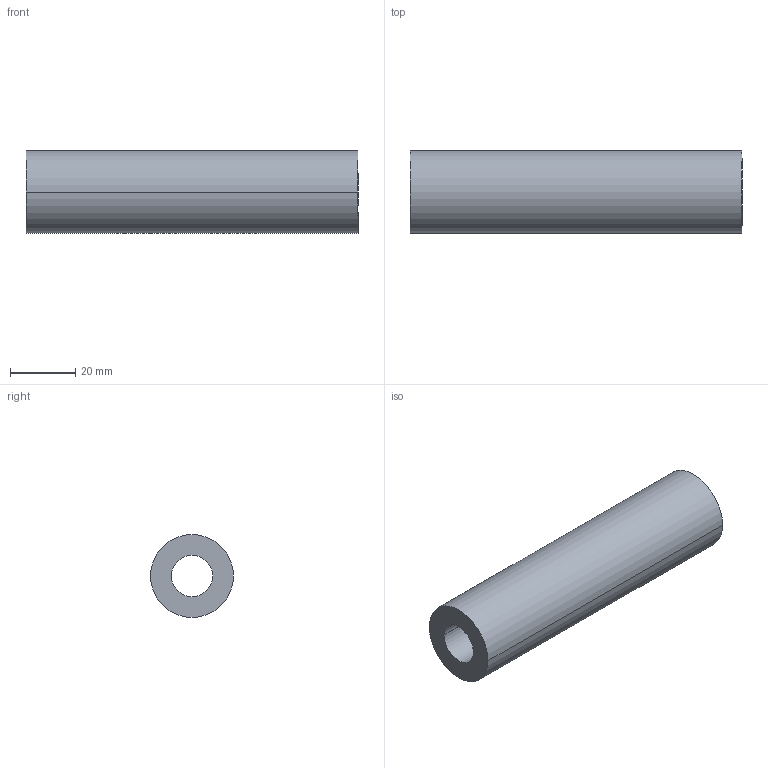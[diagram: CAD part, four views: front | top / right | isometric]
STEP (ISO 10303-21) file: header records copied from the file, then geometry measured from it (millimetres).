
FILE_DESCRIPTION (( 'STEP AP203' ), '1' );
FILE_NAME ('wssok4ss.STEP', '2020-01-24T15:57:56', ( '' ), ( '' ), 'SwSTEP 2.0', 'SolidWorks 2016', '' );
FILE_SCHEMA (( 'CONFIG_CONTROL_DESIGN' ));
Length unit declared in the file: inch
Products named in the file (2): 87573900; wssok4ss
Assembly tree (1 placements, depth 2):
  wssok4ss
    87573900
Bounding box: 101.6 x 25.4 x 25.4 mm (x, y, z)
Volume: 38611.1 mm3; surface area: 12921 mm2
Topology: 1 solids, 1 shells, 6 faces, 12 edges, 8 vertices
Faces by surface type: cylinder 4, plane 2
Entity records: 368 total; most frequent: DIRECTION 40, CARTESIAN_POINT 30, ORIENTED_EDGE 24, AXIS2_PLACEMENT_3D 18, PERSON_AND_ORGANIZATION 17, CALENDAR_DATE 12, LOCAL_TIME 12, COORDINATED_UNIVERSAL_TIME_OFFSET 12
